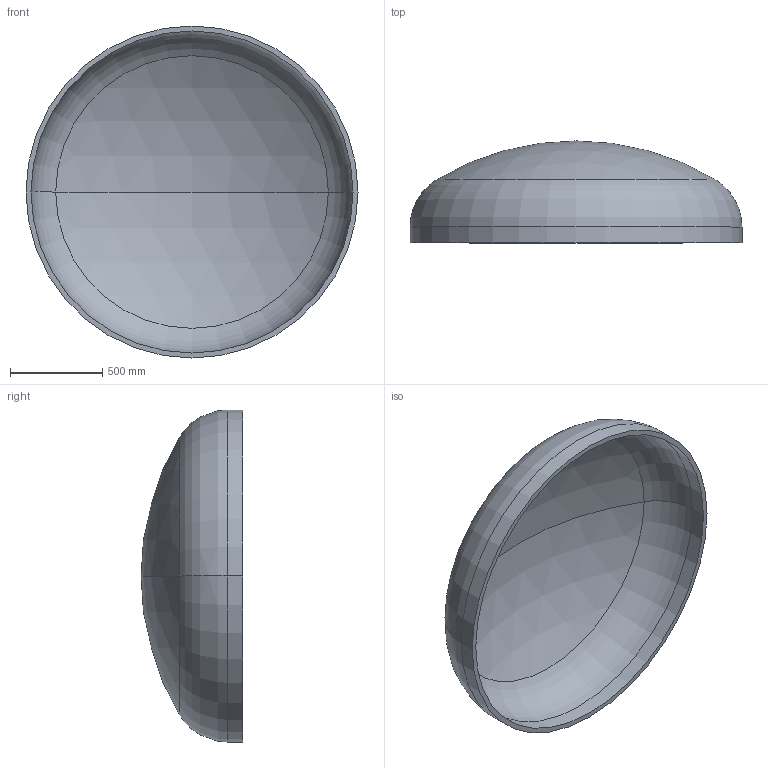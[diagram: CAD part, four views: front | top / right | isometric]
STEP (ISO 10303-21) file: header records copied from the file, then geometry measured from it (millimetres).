
FILE_DESCRIPTION (( 'STEP AP203' ), '1' );
FILE_NAME ('DIN 28013 Korbbogenform_-_Boden DIN 28013 - 1800 x 85 - I - s=27.step', '2016-07-01T12:24:03', ( '' ), ( '' ), 'SwSTEP 2.0', 'SolidWorks 2013', '' );
FILE_SCHEMA (( 'CONFIG_CONTROL_DESIGN' ));
Length unit declared in the file: millimetre
Products named in the file (1): DIN 28013 Korbbogenform_-_Boden DIN 28013 - 1800 x 85 - I - s=27
Bounding box: 1800 x 552.19 x 1800 mm (x, y, z)
Volume: 105928422 mm3; surface area: 7998465.1 mm2
Topology: 1 solids, 1 shells, 13 faces, 24 edges, 14 vertices
Faces by surface type: torus 4, cylinder 4, sphere 4, plane 1
Entity records: 407 total; most frequent: DIRECTION 72, CARTESIAN_POINT 52, ORIENTED_EDGE 48, AXIS2_PLACEMENT_3D 34, EDGE_CURVE 24, CIRCLE 20, EDGE_LOOP 14, VERTEX_POINT 14
